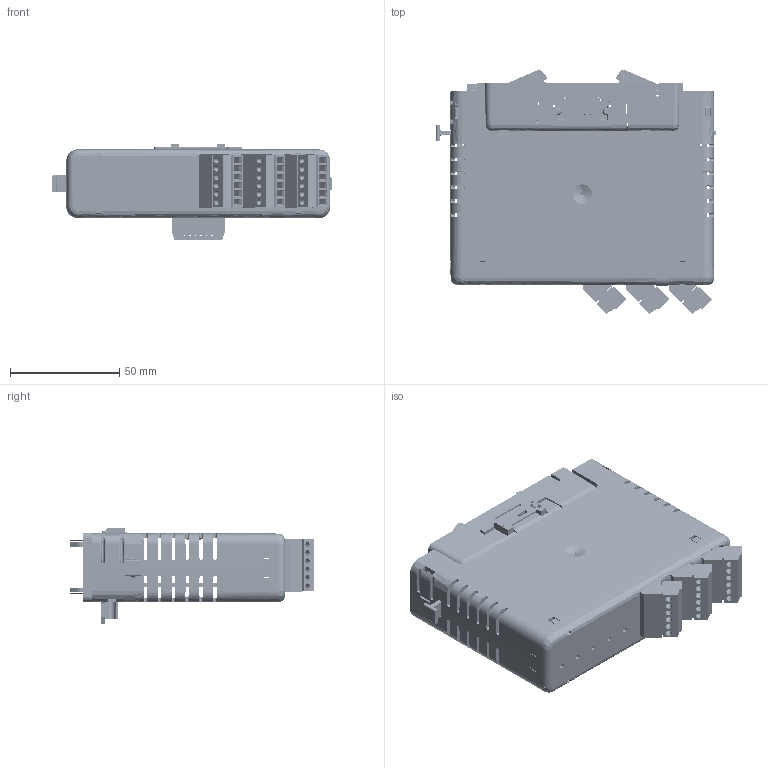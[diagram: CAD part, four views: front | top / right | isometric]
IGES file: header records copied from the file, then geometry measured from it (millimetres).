
Start section: C
Global section: file name: CSPID1xx.igs; native system: By Siemens PLM Incorporated; preprocessor: XPlus GENERIC/IGES 17.0.49; author: Author; organization: Title; date: 20150925.111020; units: millimetre
Bounding box: 128.14 x 111.65 x 43.84 mm (x, y, z)
Surface area: 143271.8 mm2 (no closed solid volume)
Topology: 0 solids, 0 shells, 5061 faces, 28957 edges, 28913 vertices
Faces by surface type: bspline 5061
